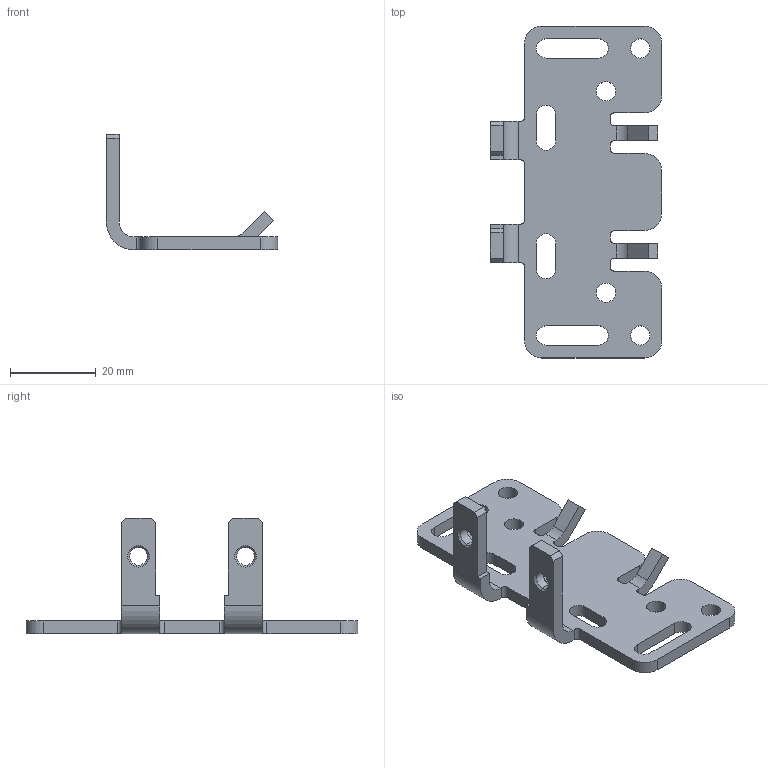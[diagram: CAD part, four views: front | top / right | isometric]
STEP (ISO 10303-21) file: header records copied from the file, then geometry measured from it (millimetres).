
FILE_DESCRIPTION( ( '' ), '1' );
FILE_NAME( '//partserver001.servicenet/client_exchange/iodir/jobs/output/wkb16454591_no2/STEP/e21085_2_03.stp', '2009-05-27T06:54:24', ( '' ), ( '' ), ' ', ' ', ' ' );
FILE_SCHEMA( ( 'CONFIG_CONTROL_DESIGN' ) );
Length unit declared in the file: millimetre
Products named in the file (1): 1
Bounding box: 40 x 77.5 x 27 mm (x, y, z)
Volume: 7480.7 mm3; surface area: 6860.9 mm2
Topology: 1 solids, 1 shells, 110 faces, 316 edges, 208 vertices
Faces by surface type: plane 54, cylinder 48, cone 8
Entity records: 3704 total; most frequent: DIRECTION 642, CARTESIAN_POINT 635, ORIENTED_EDGE 632, EDGE_CURVE 316, AXIS2_PLACEMENT_3D 215, LINE 212, VECTOR 212, VERTEX_POINT 208
